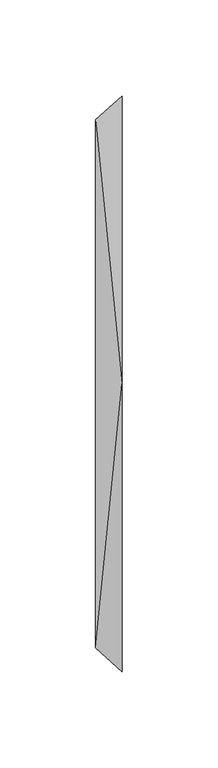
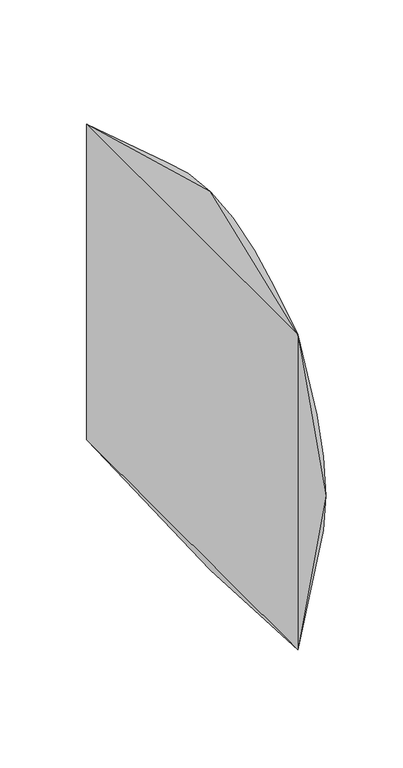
"""IFC4 building model written with IfcOpenShell, lengths in millimetres: duct fitting geometry, magicirc_multi_shape_trans_001 : magicirc_multi_shape_trans_001."""

import ifcopenshell
import ifcopenshell.guid

model = None  # the IFC model being written
_history = None  # IfcOwnerHistory: only IFC2X3 demands one
_inside = {}  # id of a spatial element -> (the spatial element, [elements in it])
_under = {}  # id of a project, library or spatial element -> (it, [spatial elements below it])
_declared = {}  # id of a project -> (the project, [libraries it declares])
_typed = {}  # id of a type object -> (the type object, [elements of that type])
_made_of = {}  # id of a material, layer set ... -> (it, [elements and type objects made of it])


def new_model(schema):
    """Start an empty IFC model of exactly this schema.

    Asked for "IFC4X3", IfcOpenShell would pick the latest addendum, in which some entities
    have other attributes; the version numbers below select the first issue.
    IFC2X3 requires an IfcOwnerHistory on every rooted entity: one is made here for all.
    """
    global model, _history
    if schema == "IFC4X3":
        model = ifcopenshell.file(schema_version=(4, 3, 0, 0))
    else:
        model = ifcopenshell.file(schema=schema)
    _inside.clear()
    _under.clear()
    _declared.clear()
    _typed.clear()
    _made_of.clear()
    _history = None
    if model.schema == "IFC2X3":
        org = make("IfcOrganization", Name="unknown")
        user = make(
            "IfcPersonAndOrganization",
            ThePerson=make("IfcPerson", FamilyName="unknown"),
            TheOrganization=org,
        )
        app = make(
            "IfcApplication",
            ApplicationDeveloper=org,
            Version="unknown",
            ApplicationFullName="unknown",
            ApplicationIdentifier="unknown",
        )
        _history = make(
            "IfcOwnerHistory",
            OwningUser=user,
            OwningApplication=app,
            ChangeAction="ADDED",
            CreationDate=0,
        )
    return model


def make(cls, **values):
    """One entity of the class cls with the attributes given. An attribute that is None is left unset."""
    return model.create_entity(
        cls, **{name: value for name, value in values.items() if value is not None}
    )


def rooted(cls, **values):
    """An entity with a GlobalId (a new one), such as an element, a storey or a relation."""
    return make(cls, GlobalId=ifcopenshell.guid.new(), OwnerHistory=_history, **values)


def si_unit(unit_type, name, prefix=None):
    """IfcSIUnit, for example si_unit("LENGTHUNIT", "METRE", prefix="MILLI")."""
    return make("IfcSIUnit", UnitType=unit_type, Prefix=prefix, Name=name)


def assignment(units):
    """IfcUnitAssignment: the units of a project."""
    return None if units is None else make("IfcUnitAssignment", Units=units)


def point(xyz):
    """IfcCartesianPoint."""
    return None if xyz is None else make("IfcCartesianPoint", Coordinates=xyz)


def direction(xyz):
    """IfcDirection."""
    return None if xyz is None else make("IfcDirection", DirectionRatios=xyz)


def frame(location, z_axis=None, x_axis=None):
    """IfcAxis2Placement3D, a coordinate frame: its origin and axes. An axis left out is left unset."""
    return make(
        "IfcAxis2Placement3D",
        Location=point(location),
        Axis=direction(z_axis),
        RefDirection=direction(x_axis),
    )


def origin():
    """The frame at (0, 0, 0) with its axes left unset."""
    return frame((0.0, 0.0, 0.0))


def place(relative_to, where):
    """IfcLocalPlacement: puts the frame where relative to a parent placement (None: the world)."""
    return make(
        "IfcLocalPlacement", PlacementRelTo=relative_to, RelativePlacement=where
    )


def context(
    kind, dimensions, precision=None, world=None, true_north=None, identifier=None
):
    """IfcGeometricRepresentationContext, for example the 3D "Model" context."""
    return make(
        "IfcGeometricRepresentationContext",
        ContextIdentifier=identifier,
        ContextType=kind,
        CoordinateSpaceDimension=dimensions,
        Precision=precision,
        WorldCoordinateSystem=world,
        TrueNorth=true_north,
    )


def project(units=None, contexts=None):
    """IfcProject with its units and contexts."""
    return rooted(
        "IfcProject",
        Name="project",
        RepresentationContexts=contexts,
        UnitsInContext=assignment(units),
    )


def spatial(cls, under=None, at=None, **own):
    """A site, building, storey or space (cls), placed at a placement, below another one or the project."""
    s = rooted(cls, ObjectPlacement=at, **own)
    if under is not None:
        _under.setdefault(under.id(), (under, []))[1].append(s)
    return s


def circle_curve(where, radius):
    """IfcCircle in the frame where."""
    return make("IfcCircle", Position=where, Radius=radius)


def shape(context_of_items, identifier, shape_type, items):
    """IfcShapeRepresentation: the items that make up one representation, for example the "Body"."""
    return make(
        "IfcShapeRepresentation",
        ContextOfItems=context_of_items,
        RepresentationIdentifier=identifier,
        RepresentationType=shape_type,
        Items=items,
    )


def source(mapping_origin, context_of_items, identifier, shape_type, items):
    """IfcRepresentationMap: a shape defined once, which mapped items show again and again."""
    return make(
        "IfcRepresentationMap",
        MappingOrigin=mapping_origin,
        MappedRepresentation=shape(context_of_items, identifier, shape_type, items),
    )


def transform(
    local_origin,
    x_axis=None,
    y_axis=None,
    z_axis=None,
    scale=None,
    scale2=None,
    scale3=None,
    uniform=True,
):
    """IfcCartesianTransformationOperator3D, or its non-uniform kind. x_axis, y_axis, z_axis: its Axis1, 2, 3."""
    if uniform:
        return make(
            "IfcCartesianTransformationOperator3D",
            Axis1=direction(x_axis),
            Axis2=direction(y_axis),
            LocalOrigin=point(local_origin),
            Scale=scale,
            Axis3=direction(z_axis),
        )
    return make(
        "IfcCartesianTransformationOperator3DnonUniform",
        Axis1=direction(x_axis),
        Axis2=direction(y_axis),
        LocalOrigin=point(local_origin),
        Scale=scale,
        Axis3=direction(z_axis),
        Scale2=scale2,
        Scale3=scale3,
    )


def mapped(mapping_source, mapping_target):
    """IfcMappedItem: shows the shape of a source again, moved by a transform."""
    return make(
        "IfcMappedItem", MappingSource=mapping_source, MappingTarget=mapping_target
    )


def made_of(thing, what):
    """Note that an element or type object is made of a material, layer set ...; save() writes the relation."""
    if what is not None:
        _made_of.setdefault(what.id(), (what, []))[1].append(thing)
    return thing


def element(
    cls,
    number,
    at=None,
    inside=None,
    cuts=None,
    type_object=None,
    material=None,
    context=None,
    identifier="Body",
    shape_type=None,
    held_by="IfcProductDefinitionShape",
    body=None,
    shapes=None,
    **own,
):
    """One element of the class cls, such as IfcWall. Its Tag is "e" and its number.

    at: its placement. inside: the storey or other place that contains it. cuts: it is an
    opening in that element (IfcRelVoidsElement). A single representation is given by context,
    identifier, shape_type and body (its items); several are given by shapes. held_by: the class
    of the entity that holds the representations. save() writes the other relations.
    """
    e = rooted(cls, Tag="e%d" % number, ObjectPlacement=at, **own)
    if body is not None:
        shapes = [shape(context, identifier, shape_type, body)]
    if shapes is not None:
        e.Representation = make(held_by, Representations=shapes)
    if inside is not None:
        _inside.setdefault(inside.id(), (inside, []))[1].append(e)
    if cuts is not None:
        rooted(
            "IfcRelVoidsElement", RelatingBuildingElement=cuts, RelatedOpeningElement=e
        )
    if type_object is not None:
        _typed.setdefault(type_object.id(), (type_object, []))[1].append(e)
    return made_of(e, material)


def aggregate(whole, parts):
    """IfcRelAggregates: a whole, such as a stair, and the parts it consists of."""
    return rooted("IfcRelAggregates", RelatingObject=whole, RelatedObjects=parts)


def save(model, path):
    """Write the relations noted so far, then the file.

    IfcRelAggregates (storeys below a building ...), IfcRelContainedInSpatialStructure (elements
    in a storey), IfcRelDefinesByType, IfcRelAssociatesMaterial and IfcRelDeclares: one each for
    every whole, place, type object, material and project.
    """
    for whole, parts in _under.values():
        aggregate(whole, parts)
    for where, things in _inside.values():
        rooted(
            "IfcRelContainedInSpatialStructure",
            RelatedElements=things,
            RelatingStructure=where,
        )
    for kind, things in _typed.values():
        rooted("IfcRelDefinesByType", RelatedObjects=things, RelatingType=kind)
    for what, things in _made_of.values():
        rooted("IfcRelAssociatesMaterial", RelatedObjects=things, RelatingMaterial=what)
    for by, libraries in _declared.values():
        rooted("IfcRelDeclares", RelatingContext=by, RelatedDefinitions=libraries)
    model.write(path)


def plane_surface(at):
    """IfcPlane: the flat surface through the origin of the frame at, square to its z axis."""
    return make("IfcPlane", Position=at)


def spline_surface(u_degree, v_degree, points, u_multiplicities, v_multiplicities, u_knots, v_knots, weights=None):
    """IfcBSplineSurfaceWithKnots; with weights, IfcRationalBSplineSurfaceWithKnots. points: one row for each step in u."""
    own = dict(
        UDegree=u_degree,
        VDegree=v_degree,
        ControlPointsList=[[point(p) for p in row] for row in points],
        SurfaceForm="UNSPECIFIED",
        UClosed=False,
        VClosed=False,
        SelfIntersect=False,
        UMultiplicities=u_multiplicities,
        VMultiplicities=v_multiplicities,
        UKnots=u_knots,
        VKnots=v_knots,
        KnotSpec="UNSPECIFIED",
    )
    if weights is None:
        return make("IfcBSplineSurfaceWithKnots", **own)
    return make("IfcRationalBSplineSurfaceWithKnots", WeightsData=weights, **own)


def advanced_brep(points, edges, surfaces, faces):
    """IfcAdvancedBrep: a solid bounded by faces that lie on surfaces and meet in shared edges.

    An edge is (start, end): straight between two places in points (the first is 0);
    or (start, end, curve); or (start, end, curve, False) where it runs against its curve.
    A face is (place in surfaces, loops), or (place, loops, False) where it looks against
    its surface's normal. A loop lists edges by number (the first is 1), with a minus sign
    where the edge is run from its end to its start. The first loop is the outer one.
    """
    corners = [point(p) for p in points]
    vertices = [make("IfcVertexPoint", VertexGeometry=c) for c in corners]
    made = []
    for start, end, *more in edges:
        made.append(
            make(
                "IfcEdgeCurve",
                EdgeStart=vertices[start],
                EdgeEnd=vertices[end],
                EdgeGeometry=more[0] if more else make("IfcPolyline", Points=[corners[start], corners[end]]),
                SameSense=more[1] if len(more) > 1 else True,
            )
        )
    hull = []
    for where, loops, *sense in faces:
        bounds = []
        for j, loop in enumerate(loops):
            ring = [make("IfcOrientedEdge", EdgeElement=made[abs(k) - 1], Orientation=k > 0) for k in loop]
            bounds.append(
                make(
                    "IfcFaceOuterBound" if j == 0 else "IfcFaceBound",
                    Bound=make("IfcEdgeLoop", EdgeList=ring),
                    Orientation=True,
                )
            )
        hull.append(make("IfcAdvancedFace", Bounds=bounds, FaceSurface=surfaces[where], SameSense=sense[0] if sense else True))
    return make("IfcAdvancedBrep", Outer=make("IfcClosedShell", CfsFaces=hull))


def duct_fitting_c4d3de29(model_context):
    return source(origin(), model_context, "Body", "AdvancedBrep", [
        advanced_brep(
        [(0.0, -137.5, -125.0), (0.0, -137.5, 125.0), (0.0, 137.5, 125.0), (0.0, 137.5, -125.0), (13.6413563, -150.0, 0.05), (13.6413563, 0.0, -149.95), (13.6413563, 150.0, 0.05), (13.6413563, 0.0, 150.05)],
        [
            (0, 1),
            (1, 2),
            (2, 3),
            (3, 0),
            (4, 5, circle_curve(frame((13.6413563, 0.0, 0.05), z_axis=(1.0, 0.0, 0.0), x_axis=(0.0, -1.0, 0.0)), 150.0)),
            (5, 6, circle_curve(frame((13.6413563, 0.0, 0.05), z_axis=(1.0, 0.0, 0.0), x_axis=(0.0, -1.0, 0.0)), 150.0)),
            (6, 7, circle_curve(frame((13.6413563, 0.0, 0.05), z_axis=(1.0, 0.0, 0.0), x_axis=(0.0, -1.0, 0.0)), 150.0)),
            (7, 4, circle_curve(frame((13.6413563, 0.0, 0.05), z_axis=(1.0, 0.0, 0.0), x_axis=(0.0, -1.0, 0.0)), 150.0)),
            (0, 4),
            (4, 1),
            (7, 1),
            (7, 2),
            (6, 2),
            (6, 3),
            (5, 3),
            (5, 0),
        ],
        [
            plane_surface(frame((0.0, 0.0, 0.0), z_axis=(-1.0, 0.0, 0.0), x_axis=(0.0, 1.0, 0.0))),
            plane_surface(frame((13.6413563, 0.0, 0.05), z_axis=(1.0, 0.0, 0.0), x_axis=(0.0, 1.0, 0.0))),
            plane_surface(frame((13.6413563, -150.0, 0.05), z_axis=(-0.6755902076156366, -0.7372773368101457, 0.0), x_axis=(0.0, 0.0, 1.0))),
            spline_surface(2, 1, [[(13.6413563, -150.0, 0.05), (0.0, -137.5, 125.0)], [(13.6413563, -150.0, 150.05), (0.0, -137.5, 125.0)], [(13.6413563, 0.0, 150.05), (0.0, -137.5, 125.0)]], [3, 3], [2, 2], [0.0, 1.0], [0.0, 1.0], weights=[[1.0, 1.0], [0.7071067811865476, 0.7071067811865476], [1.0, 1.0]]),
            plane_surface(frame((13.6413563, 0.0, 150.05), z_axis=(-0.8782237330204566, 0.0, 0.4782500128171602), x_axis=(0.0, 1.0, 0.0))),
            spline_surface(2, 1, [[(13.6413563, 0.0, 150.05), (0.0, 137.5, 125.0)], [(13.6413563, 150.0, 150.05), (0.0, 137.5, 125.0)], [(13.6413563, 150.0, 0.05), (0.0, 137.5, 125.0)]], [3, 3], [2, 2], [0.0, 1.0], [0.0, 1.0], weights=[[1.0, 1.0], [0.7071067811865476, 0.7071067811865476], [1.0, 1.0]]),
            plane_surface(frame((13.6413563, 150.0, 0.05), z_axis=(-0.6755902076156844, 0.737277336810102, 0.0), x_axis=(0.0, 0.0, -1.0))),
            spline_surface(2, 1, [[(13.6413563, 150.0, 0.05), (0.0, 137.5, -125.0)], [(13.6413563, 150.0, -149.95), (0.0, 137.5, -125.0)], [(13.6413563, 0.0, -149.95), (0.0, 137.5, -125.0)]], [3, 3], [2, 2], [0.0, 1.0], [0.0, 1.0], weights=[[1.0, 1.0], [0.7071067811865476, 0.7071067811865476], [1.0, 1.0]]),
            plane_surface(frame((13.6413563, 0.0, -149.95), z_axis=(-0.8774181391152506, 0.0, -0.47972638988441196), x_axis=(0.0, -1.0, 0.0))),
            spline_surface(2, 1, [[(13.6413563, 0.0, -149.95), (0.0, -137.5, -125.0)], [(13.6413563, -150.0, -149.95), (0.0, -137.5, -125.0)], [(13.6413563, -150.0, 0.05), (0.0, -137.5, -125.0)]], [3, 3], [2, 2], [0.0, 1.0], [0.0, 1.0], weights=[[1.0, 1.0], [0.7071067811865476, 0.7071067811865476], [1.0, 1.0]]),
        ],
        [
            (0, [[1, 2, 3, 4]]),
            (1, [[5, 6, 7, 8]]),
            (2, [[-1, 9, 10]]),
            (3, [[-8, 11, -10]]),
            (4, [[-2, -11, 12]]),
            (5, [[-7, 13, -12]]),
            (6, [[-3, -13, 14]]),
            (7, [[-6, 15, -14]]),
            (8, [[-4, -15, 16]]),
            (9, [[-5, -9, -16]]),
        ],
    ),
        advanced_brep(
        [(0.0, -137.5, -125.0), (0.0, -137.5, 125.0), (0.0, 137.5, 125.0), (0.0, 137.5, -125.0), (13.6413563, -150.0, 0.05), (13.6413563, 0.0, -149.95), (13.6413563, 150.0, 0.05), (13.6413563, 0.0, 150.05)],
        [
            (0, 1),
            (1, 2),
            (2, 3),
            (3, 0),
            (4, 5, circle_curve(frame((13.6413563, 0.0, 0.05), z_axis=(1.0, 0.0, 0.0), x_axis=(0.0, -1.0, 0.0)), 150.0)),
            (5, 6, circle_curve(frame((13.6413563, 0.0, 0.05), z_axis=(1.0, 0.0, 0.0), x_axis=(0.0, -1.0, 0.0)), 150.0)),
            (6, 7, circle_curve(frame((13.6413563, 0.0, 0.05), z_axis=(1.0, 0.0, 0.0), x_axis=(0.0, -1.0, 0.0)), 150.0)),
            (7, 4, circle_curve(frame((13.6413563, 0.0, 0.05), z_axis=(1.0, 0.0, 0.0), x_axis=(0.0, -1.0, 0.0)), 150.0)),
            (0, 4),
            (4, 1),
            (7, 1),
            (7, 2),
            (6, 2),
            (6, 3),
            (5, 3),
            (5, 0),
        ],
        [
            plane_surface(frame((0.0, 0.0, 0.0), z_axis=(-1.0, 0.0, 0.0), x_axis=(0.0, 1.0, 0.0))),
            plane_surface(frame((13.6413563, 0.0, 0.05), z_axis=(1.0, 0.0, 0.0), x_axis=(0.0, 1.0, 0.0))),
            plane_surface(frame((13.6413563, -150.0, 0.05), z_axis=(-0.6755902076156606, -0.7372773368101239, 0.0), x_axis=(0.0, 0.0, 1.0))),
            spline_surface(2, 1, [[(13.6413563, -150.0, 0.05), (0.0, -137.5, 125.0)], [(13.6413563, -150.0, 150.05), (0.0, -137.5, 125.0)], [(13.6413563, 0.0, 150.05), (0.0, -137.5, 125.0)]], [3, 3], [2, 2], [0.0, 1.0], [0.0, 1.0], weights=[[1.0, 1.0], [0.7071067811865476, 0.7071067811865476], [1.0, 1.0]]),
            plane_surface(frame((13.6413563, 0.0, 150.05), z_axis=(-0.8782237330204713, 0.0, 0.4782500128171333), x_axis=(0.0, 1.0, 0.0))),
            spline_surface(2, 1, [[(13.6413563, 0.0, 150.05), (0.0, 137.5, 125.0)], [(13.6413563, 150.0, 150.05), (0.0, 137.5, 125.0)], [(13.6413563, 150.0, 0.05), (0.0, 137.5, 125.0)]], [3, 3], [2, 2], [0.0, 1.0], [0.0, 1.0], weights=[[1.0, 1.0], [0.7071067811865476, 0.7071067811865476], [1.0, 1.0]]),
            plane_surface(frame((13.6413563, 150.0, 0.05), z_axis=(-0.6755902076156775, 0.7372773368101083, 0.0), x_axis=(0.0, 0.0, -1.0))),
            spline_surface(2, 1, [[(13.6413563, 150.0, 0.05), (0.0, 137.5, -125.0)], [(13.6413563, 150.0, -149.95), (0.0, 137.5, -125.0)], [(13.6413563, 0.0, -149.95), (0.0, 137.5, -125.0)]], [3, 3], [2, 2], [0.0, 1.0], [0.0, 1.0], weights=[[1.0, 1.0], [0.7071067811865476, 0.7071067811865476], [1.0, 1.0]]),
            plane_surface(frame((13.6413563, 0.0, -149.95), z_axis=(-0.8774181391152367, 0.0, -0.4797263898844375), x_axis=(0.0, -1.0, 0.0))),
            spline_surface(2, 1, [[(13.6413563, 0.0, -149.95), (0.0, -137.5, -125.0)], [(13.6413563, -150.0, -149.95), (0.0, -137.5, -125.0)], [(13.6413563, -150.0, 0.05), (0.0, -137.5, -125.0)]], [3, 3], [2, 2], [0.0, 1.0], [0.0, 1.0], weights=[[1.0, 1.0], [0.7071067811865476, 0.7071067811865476], [1.0, 1.0]]),
        ],
        [
            (0, [[1, 2, 3, 4]]),
            (1, [[5, 6, 7, 8]]),
            (2, [[-1, 9, 10]]),
            (3, [[-8, 11, -10]]),
            (4, [[-2, -11, 12]]),
            (5, [[-7, 13, -12]]),
            (6, [[-3, -13, 14]]),
            (7, [[-6, 15, -14]]),
            (8, [[-4, -15, 16]]),
            (9, [[-5, -9, -16]]),
        ],
    ),
        advanced_brep(
        [(13.6413563, 0.0, 150.05), (13.6413563, -150.0, 0.05), (13.6413563, 0.0, -149.95), (13.6413563, 150.0, 0.05), (0.0, -137.5, 125.0), (0.0, 137.5, 125.0), (0.0, 137.5, -125.0), (0.0, -137.5, -125.0)],
        [
            (0, 1, circle_curve(frame((13.6413563, 0.0, 0.05), z_axis=(1.0, 0.0, 0.0), x_axis=(0.0, 1.0, 0.0)), 150.0)),
            (1, 2, circle_curve(frame((13.6413563, 0.0, 0.05), z_axis=(1.0, 0.0, 0.0), x_axis=(0.0, 1.0, 0.0)), 150.0)),
            (2, 3, circle_curve(frame((13.6413563, 0.0, 0.05), z_axis=(1.0, 0.0, 0.0), x_axis=(0.0, 1.0, 0.0)), 150.0)),
            (3, 0, circle_curve(frame((13.6413563, 0.0, 0.05), z_axis=(1.0, 0.0, 0.0), x_axis=(0.0, 1.0, 0.0)), 150.0)),
            (4, 5),
            (5, 6),
            (6, 7),
            (7, 4),
            (0, 4),
            (4, 1),
            (7, 1),
            (7, 2),
            (6, 2),
            (6, 3),
            (5, 3),
            (5, 0),
        ],
        [
            plane_surface(frame((13.6413563, 0.0, 0.05), z_axis=(1.0, 0.0, 0.0), x_axis=(0.0, 0.0, -1.0))),
            plane_surface(frame((0.0, 0.0, 0.0), z_axis=(-1.0, 0.0, 0.0), x_axis=(0.0, 0.0, -1.0))),
            spline_surface(2, 1, [[(0.0, -137.5, 125.0), (13.6413563, 0.0, 150.05)], [(0.0, -137.5, 125.0), (13.6413563, -150.0, 150.05)], [(0.0, -137.5, 125.0), (13.6413563, -150.0, 0.05)]], [3, 3], [2, 2], [0.0, 1.0], [0.0, 1.0], weights=[[1.0, 1.0], [0.7071067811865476, 0.7071067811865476], [1.0, 1.0]]),
            plane_surface(frame((0.0, -137.5, 0.0), z_axis=(-0.6755902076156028, -0.7372773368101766, 0.0), x_axis=(0.0, 0.0, -1.0))),
            spline_surface(2, 1, [[(0.0, -137.5, -125.0), (13.6413563, -150.0, 0.05)], [(0.0, -137.5, -125.0), (13.6413563, -150.0, -149.95)], [(0.0, -137.5, -125.0), (13.6413563, 0.0, -149.95)]], [3, 3], [2, 2], [0.0, 1.0], [0.0, 1.0], weights=[[1.0, 1.0], [0.7071067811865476, 0.7071067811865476], [1.0, 1.0]]),
            plane_surface(frame((0.0, 0.0, -125.0), z_axis=(-0.8774181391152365, 0.0, -0.4797263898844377), x_axis=(0.0, 1.0, 0.0))),
            spline_surface(2, 1, [[(0.0, 137.5, -125.0), (13.6413563, 0.0, -149.95)], [(0.0, 137.5, -125.0), (13.6413563, 150.0, -149.95)], [(0.0, 137.5, -125.0), (13.6413563, 150.0, 0.05)]], [3, 3], [2, 2], [0.0, 1.0], [0.0, 1.0], weights=[[1.0, 1.0], [0.7071067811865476, 0.7071067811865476], [1.0, 1.0]]),
            plane_surface(frame((0.0, 137.5, 0.0), z_axis=(-0.6755902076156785, 0.7372773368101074, 0.0), x_axis=(0.0, 0.0, 1.0))),
            spline_surface(2, 1, [[(0.0, 137.5, 125.0), (13.6413563, 150.0, 0.05)], [(0.0, 137.5, 125.0), (13.6413563, 150.0, 150.05)], [(0.0, 137.5, 125.0), (13.6413563, 0.0, 150.05)]], [3, 3], [2, 2], [0.0, 1.0], [0.0, 1.0], weights=[[1.0, 1.0], [0.7071067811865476, 0.7071067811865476], [1.0, 1.0]]),
            plane_surface(frame((0.0, 0.0, 125.0), z_axis=(-0.8782237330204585, 0.0, 0.4782500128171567), x_axis=(0.0, -1.0, 0.0))),
        ],
        [
            (0, [[1, 2, 3, 4]]),
            (1, [[5, 6, 7, 8]]),
            (2, [[-1, 9, 10]]),
            (3, [[-8, 11, -10]]),
            (4, [[-2, -11, 12]]),
            (5, [[-7, 13, -12]]),
            (6, [[-3, -13, 14]]),
            (7, [[-6, 15, -14]]),
            (8, [[-4, -15, 16]]),
            (9, [[-5, -9, -16]]),
        ],
    ),
    ])


if __name__ == "__main__":
    model = new_model("IFC4")
    model_context = context("Model", 3, world=origin())
    ifc_project = project(units=[si_unit("LENGTHUNIT", "METRE", prefix="MILLI")], contexts=[model_context])
    site = spatial("IfcSite", under=ifc_project)
    building = spatial("IfcBuilding", under=site)
    placement = place(None, origin())
    duct_fitting_shape = duct_fitting_c4d3de29(model_context)
    element("IfcDuctFitting", 1, ObjectType="magicirc_multi_shape_trans_001 : magicirc_multi_shape_trans_001", at=placement, inside=building, context=model_context, shape_type="MappedRepresentation", body=[
        mapped(duct_fitting_shape, transform((0.0, 0.0, 0.0), x_axis=(1.0, 0.0, 0.0), y_axis=(0.0, 1.0, 0.0), z_axis=(0.0, 0.0, 1.0))),
    ])
    save(model, "model.ifc")
